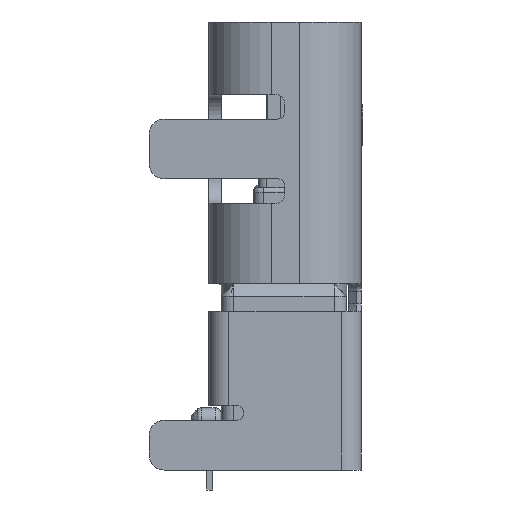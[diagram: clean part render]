
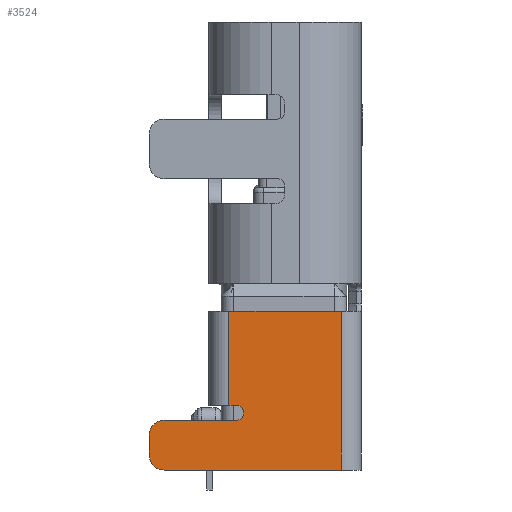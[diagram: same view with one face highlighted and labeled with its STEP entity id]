
A CAD part, left-side view. The second image highlights one B-rep face of the part: STEP entity #3524.
In plain terms, the highlighted planar face has unit normal (-1, 0, 0).
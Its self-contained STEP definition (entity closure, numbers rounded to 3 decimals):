
#175 = VERTEX_POINT ( 'NONE', #10527 ) ;
#187 = VERTEX_POINT ( 'NONE', #8750 ) ;
#288 = CARTESIAN_POINT ( 'NONE',  ( 46.296, 2.423, -69.311 ) ) ;
#330 = CARTESIAN_POINT ( 'NONE',  ( 46.296, 2.023, -66.121 ) ) ;
#363 = ORIENTED_EDGE ( 'NONE', *, *, #3193, .T. ) ;
#1380 = CARTESIAN_POINT ( 'NONE',  ( 46.296, 2.423, -65.561 ) ) ;
#1565 = AXIS2_PLACEMENT_3D ( 'NONE', #30704, #20052, #7195 ) ;
#1884 = PLANE ( 'NONE',  #30198 ) ;
#2368 = DIRECTION ( 'NONE',  ( 0., -1., 0. ) ) ;
#2569 = EDGE_CURVE ( 'NONE', #175, #29394, #29515, .T. ) ;
#2729 = LINE ( 'NONE', #330, #3710 ) ;
#2869 = LINE ( 'NONE', #288, #19548 ) ;
#2885 = ORIENTED_EDGE ( 'NONE', *, *, #15386, .T. ) ;
#3110 = AXIS2_PLACEMENT_3D ( 'NONE', #26329, #18247, #14085 ) ;
#3193 = EDGE_CURVE ( 'NONE', #4585, #4613, #7078, .T. ) ;
#3524 = ADVANCED_FACE ( 'NONE', ( #6872 ), #1884, .T. ) ;
#3710 = VECTOR ( 'NONE', #18509, 1000. ) ;
#3947 = EDGE_CURVE ( 'NONE', #29364, #23294, #22602, .T. ) ;
#4092 = CARTESIAN_POINT ( 'NONE',  ( 46.296, 2.023, -66.521 ) ) ;
#4153 = VECTOR ( 'NONE', #7308, 1000. ) ;
#4238 = CARTESIAN_POINT ( 'NONE',  ( 46.296, 2.023, -66.121 ) ) ;
#4585 = VERTEX_POINT ( 'NONE', #10962 ) ;
#4613 = VERTEX_POINT ( 'NONE', #29341 ) ;
#4942 = LINE ( 'NONE', #31200, #19495 ) ;
#6066 = EDGE_CURVE ( 'NONE', #23294, #175, #4942, .T. ) ;
#6872 = FACE_OUTER_BOUND ( 'NONE', #33940, .T. ) ;
#7078 = LINE ( 'NONE', #28358, #15353 ) ;
#7195 = DIRECTION ( 'NONE',  ( 0., 0., 1. ) ) ;
#7308 = DIRECTION ( 'NONE',  ( 0., 0., -1. ) ) ;
#7456 = CARTESIAN_POINT ( 'NONE',  ( 46.296, 1.873, -68.311 ) ) ;
#8725 = EDGE_CURVE ( 'NONE', #22534, #4585, #2869, .T. ) ;
#8750 = CARTESIAN_POINT ( 'NONE',  ( 46.296, 3.624, -68.611 ) ) ;
#9085 = CARTESIAN_POINT ( 'NONE',  ( 46.296, 1.723, -68.311 ) ) ;
#9428 = DIRECTION ( 'NONE',  ( 0., 0., 1. ) ) ;
#10478 = ORIENTED_EDGE ( 'NONE', *, *, #8725, .T. ) ;
#10527 = CARTESIAN_POINT ( 'NONE',  ( 46.296, 1.873, -68.011 ) ) ;
#10962 = CARTESIAN_POINT ( 'NONE',  ( 46.296, -0.237, -69.311 ) ) ;
#11162 = DIRECTION ( 'NONE',  ( 0., 1., 0. ) ) ;
#11563 = DIRECTION ( 'NONE',  ( -1., 0., 0. ) ) ;
#11651 = CARTESIAN_POINT ( 'NONE',  ( 46.296, 2.023, -68.011 ) ) ;
#13668 = ORIENTED_EDGE ( 'NONE', *, *, #24799, .T. ) ;
#14085 = DIRECTION ( 'NONE',  ( 0., 0., 1. ) ) ;
#14562 = ORIENTED_EDGE ( 'NONE', *, *, #3947, .T. ) ;
#14650 = CIRCLE ( 'NONE', #19042, 0.3 ) ;
#15058 = VERTEX_POINT ( 'NONE', #32374 ) ;
#15353 = VECTOR ( 'NONE', #30413, 1000. ) ;
#15386 = EDGE_CURVE ( 'NONE', #32235, #22534, #17876, .T. ) ;
#15774 = EDGE_CURVE ( 'NONE', #29364, #4613, #2729, .T. ) ;
#16830 = CARTESIAN_POINT ( 'NONE',  ( 46.296, 3.324, -69.311 ) ) ;
#17154 = DIRECTION ( 'NONE',  ( -1., 0., 0. ) ) ;
#17876 = CIRCLE ( 'NONE', #3110, 0.3 ) ;
#18247 = DIRECTION ( 'NONE',  ( -1., 0., 0. ) ) ;
#18509 = DIRECTION ( 'NONE',  ( 0., -1., 0. ) ) ;
#18937 = DIRECTION ( 'NONE',  ( 0., 0., 1. ) ) ;
#19042 = AXIS2_PLACEMENT_3D ( 'NONE', #21340, #11563, #18937 ) ;
#19379 = LINE ( 'NONE', #9085, #31341 ) ;
#19495 = VECTOR ( 'NONE', #2368, 1000. ) ;
#19509 = DIRECTION ( 'NONE',  ( 0., 0., -1. ) ) ;
#19548 = VECTOR ( 'NONE', #31703, 1000. ) ;
#20000 = VECTOR ( 'NONE', #19509, 1000. ) ;
#20052 = DIRECTION ( 'NONE',  ( 1., 0., 0. ) ) ;
#20844 = LINE ( 'NONE', #28426, #4153 ) ;
#20916 = ORIENTED_EDGE ( 'NONE', *, *, #6066, .T. ) ;
#21340 = CARTESIAN_POINT ( 'NONE',  ( 46.296, 3.324, -68.611 ) ) ;
#22534 = VERTEX_POINT ( 'NONE', #16830 ) ;
#22602 = LINE ( 'NONE', #4092, #20000 ) ;
#23294 = VERTEX_POINT ( 'NONE', #11651 ) ;
#24799 = EDGE_CURVE ( 'NONE', #187, #32235, #20844, .T. ) ;
#24852 = CARTESIAN_POINT ( 'NONE',  ( 46.296, 3.624, -69.011 ) ) ;
#26057 = ORIENTED_EDGE ( 'NONE', *, *, #32994, .T. ) ;
#26329 = CARTESIAN_POINT ( 'NONE',  ( 46.296, 3.324, -69.011 ) ) ;
#27451 = EDGE_CURVE ( 'NONE', #29394, #15058, #19379, .T. ) ;
#28358 = CARTESIAN_POINT ( 'NONE',  ( 46.296, -0.237, -68.971 ) ) ;
#28426 = CARTESIAN_POINT ( 'NONE',  ( 46.296, 3.624, -68.271 ) ) ;
#29341 = CARTESIAN_POINT ( 'NONE',  ( 46.296, -0.237, -66.121 ) ) ;
#29364 = VERTEX_POINT ( 'NONE', #4238 ) ;
#29394 = VERTEX_POINT ( 'NONE', #7456 ) ;
#29515 = CIRCLE ( 'NONE', #1565, 0.15 ) ;
#30030 = ORIENTED_EDGE ( 'NONE', *, *, #27451, .T. ) ;
#30198 = AXIS2_PLACEMENT_3D ( 'NONE', #1380, #17154, #9428 ) ;
#30413 = DIRECTION ( 'NONE',  ( 0., 0., 1. ) ) ;
#30538 = ORIENTED_EDGE ( 'NONE', *, *, #15774, .F. ) ;
#30704 = CARTESIAN_POINT ( 'NONE',  ( 46.296, 1.873, -68.161 ) ) ;
#31200 = CARTESIAN_POINT ( 'NONE',  ( 46.296, 2.423, -68.011 ) ) ;
#31341 = VECTOR ( 'NONE', #11162, 1000. ) ;
#31481 = ORIENTED_EDGE ( 'NONE', *, *, #2569, .T. ) ;
#31703 = DIRECTION ( 'NONE',  ( 0., -1., 0. ) ) ;
#32235 = VERTEX_POINT ( 'NONE', #24852 ) ;
#32374 = CARTESIAN_POINT ( 'NONE',  ( 46.296, 3.324, -68.311 ) ) ;
#32994 = EDGE_CURVE ( 'NONE', #15058, #187, #14650, .T. ) ;
#33940 = EDGE_LOOP ( 'NONE', ( #363, #30538, #14562, #20916, #31481, #30030, #26057, #13668, #2885, #10478 ) ) ;
